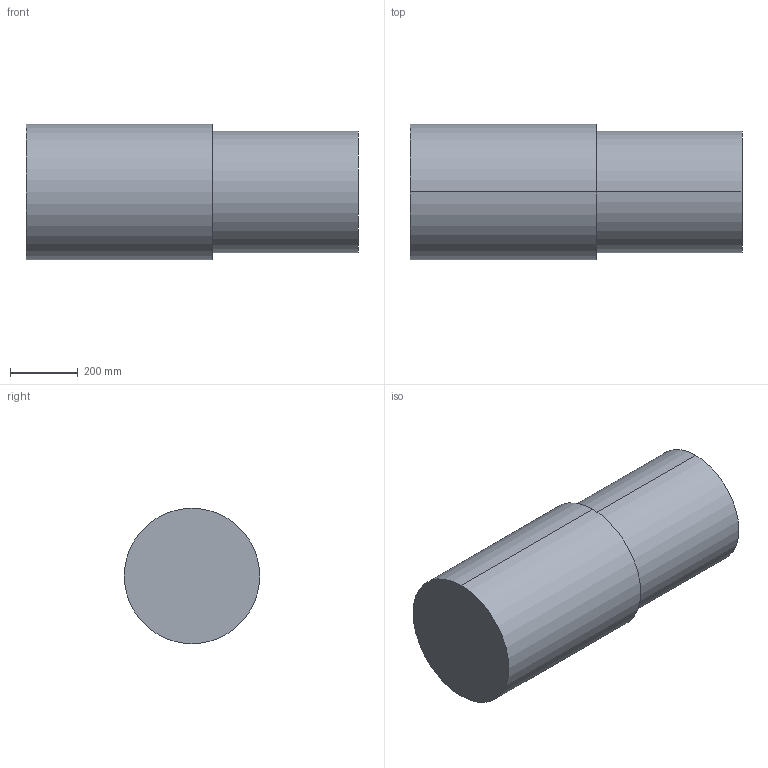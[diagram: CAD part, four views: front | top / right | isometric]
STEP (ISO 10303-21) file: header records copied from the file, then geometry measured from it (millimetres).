
FILE_DESCRIPTION (( 'STEP AP203' ), '1' );
FILE_NAME ('CL_02_Pinch_Drive_Roller.STEP', '2026-10-28T18:33:52', ( '' ), ( '' ), 'SwSTEP 2.0', 'SolidWorks 2026', '' );
FILE_SCHEMA (( 'CONFIG_CONTROL_DESIGN' ));
Length unit declared in the file: inch
Products named in the file (1): CL_02_Pinch_Drive_Roller
Bounding box: 980 x 400 x 400 mm (x, y, z)
Volume: 112883707.2 mm3; surface area: 1428796.3 mm2
Topology: 1 solids, 1 shells, 7 faces, 12 edges, 8 vertices
Faces by surface type: cylinder 4, plane 3
Entity records: 253 total; most frequent: DIRECTION 36, CARTESIAN_POINT 28, ORIENTED_EDGE 24, AXIS2_PLACEMENT_3D 16, EDGE_CURVE 12, EDGE_LOOP 8, CIRCLE 8, VERTEX_POINT 8
